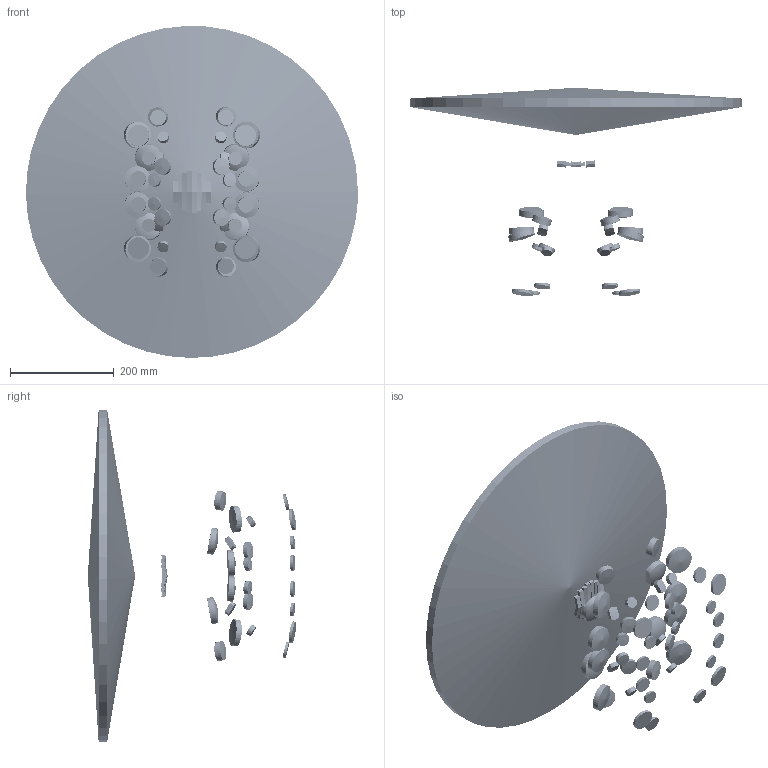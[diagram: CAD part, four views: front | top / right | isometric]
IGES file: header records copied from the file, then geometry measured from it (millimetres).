
Global section: file name: C:\Documents and Settings\mgladders\My Documents\gismo\jan06\model1.IGS; native system: HarmonyWare Translators; preprocessor: HarmonyWare IGES v1.4.8; date: 20060103.165522; units: millimetre
Bounding box: 641.1 x 402.53 x 640.8 mm (x, y, z)
Volume: 18048391.4 mm3; surface area: 926907.1 mm2
Topology: 81 solids, 13713 shells, 51588 faces, 97732 edges, 59939 vertices
Faces by surface type: bspline 51588
